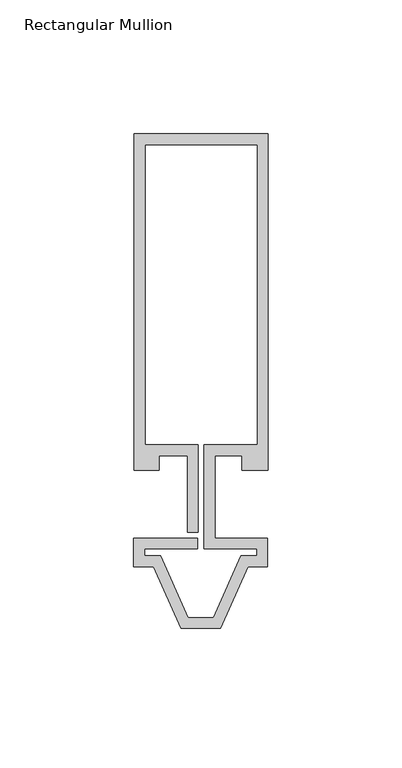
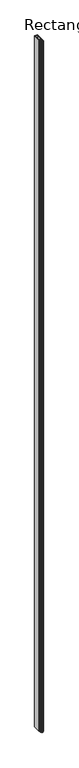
"""IFC4 building model written with IfcOpenShell, lengths in millimetres: member geometry, Rectangular Mullion : Reynaers_CW-50_Transom-Transom_Vertical_125.5mm_Facecap-04."""

import ifcopenshell
import ifcopenshell.guid

model = None  # the IFC model being written
_history = None  # IfcOwnerHistory: only IFC2X3 demands one
_inside = {}  # id of a spatial element -> (the spatial element, [elements in it])
_under = {}  # id of a project, library or spatial element -> (it, [spatial elements below it])
_declared = {}  # id of a project -> (the project, [libraries it declares])
_typed = {}  # id of a type object -> (the type object, [elements of that type])
_made_of = {}  # id of a material, layer set ... -> (it, [elements and type objects made of it])


def new_model(schema):
    """Start an empty IFC model of exactly this schema.

    Asked for "IFC4X3", IfcOpenShell would pick the latest addendum, in which some entities
    have other attributes; the version numbers below select the first issue.
    IFC2X3 requires an IfcOwnerHistory on every rooted entity: one is made here for all.
    """
    global model, _history
    if schema == "IFC4X3":
        model = ifcopenshell.file(schema_version=(4, 3, 0, 0))
    else:
        model = ifcopenshell.file(schema=schema)
    _inside.clear()
    _under.clear()
    _declared.clear()
    _typed.clear()
    _made_of.clear()
    _history = None
    if model.schema == "IFC2X3":
        org = make("IfcOrganization", Name="unknown")
        user = make(
            "IfcPersonAndOrganization",
            ThePerson=make("IfcPerson", FamilyName="unknown"),
            TheOrganization=org,
        )
        app = make(
            "IfcApplication",
            ApplicationDeveloper=org,
            Version="unknown",
            ApplicationFullName="unknown",
            ApplicationIdentifier="unknown",
        )
        _history = make(
            "IfcOwnerHistory",
            OwningUser=user,
            OwningApplication=app,
            ChangeAction="ADDED",
            CreationDate=0,
        )
    return model


def make(cls, **values):
    """One entity of the class cls with the attributes given. An attribute that is None is left unset."""
    return model.create_entity(
        cls, **{name: value for name, value in values.items() if value is not None}
    )


def rooted(cls, **values):
    """An entity with a GlobalId (a new one), such as an element, a storey or a relation."""
    return make(cls, GlobalId=ifcopenshell.guid.new(), OwnerHistory=_history, **values)


def si_unit(unit_type, name, prefix=None):
    """IfcSIUnit, for example si_unit("LENGTHUNIT", "METRE", prefix="MILLI")."""
    return make("IfcSIUnit", UnitType=unit_type, Prefix=prefix, Name=name)


def assignment(units):
    """IfcUnitAssignment: the units of a project."""
    return None if units is None else make("IfcUnitAssignment", Units=units)


def point(xyz):
    """IfcCartesianPoint."""
    return None if xyz is None else make("IfcCartesianPoint", Coordinates=xyz)


def direction(xyz):
    """IfcDirection."""
    return None if xyz is None else make("IfcDirection", DirectionRatios=xyz)


def frame(location, z_axis=None, x_axis=None):
    """IfcAxis2Placement3D, a coordinate frame: its origin and axes. An axis left out is left unset."""
    return make(
        "IfcAxis2Placement3D",
        Location=point(location),
        Axis=direction(z_axis),
        RefDirection=direction(x_axis),
    )


def origin():
    """The frame at (0, 0, 0) with its axes left unset."""
    return frame((0.0, 0.0, 0.0))


def place(relative_to, where):
    """IfcLocalPlacement: puts the frame where relative to a parent placement (None: the world)."""
    return make(
        "IfcLocalPlacement", PlacementRelTo=relative_to, RelativePlacement=where
    )


def context(
    kind, dimensions, precision=None, world=None, true_north=None, identifier=None
):
    """IfcGeometricRepresentationContext, for example the 3D "Model" context."""
    return make(
        "IfcGeometricRepresentationContext",
        ContextIdentifier=identifier,
        ContextType=kind,
        CoordinateSpaceDimension=dimensions,
        Precision=precision,
        WorldCoordinateSystem=world,
        TrueNorth=true_north,
    )


def project(units=None, contexts=None):
    """IfcProject with its units and contexts."""
    return rooted(
        "IfcProject",
        Name="project",
        RepresentationContexts=contexts,
        UnitsInContext=assignment(units),
    )


def spatial(cls, under=None, at=None, **own):
    """A site, building, storey or space (cls), placed at a placement, below another one or the project."""
    s = rooted(cls, ObjectPlacement=at, **own)
    if under is not None:
        _under.setdefault(under.id(), (under, []))[1].append(s)
    return s


def polyline(points):
    """IfcPolyline through the points."""
    return make("IfcPolyline", Points=[point(p) for p in points])


def outline(outer, holes=None, kind="AREA"):
    """IfcArbitraryClosedProfileDef: a profile drawn as a closed curve; with holes, ...WithVoids."""
    if holes is None:
        return make("IfcArbitraryClosedProfileDef", ProfileType=kind, OuterCurve=outer)
    return make(
        "IfcArbitraryProfileDefWithVoids",
        ProfileType=kind,
        OuterCurve=outer,
        InnerCurves=holes,
    )


def extrude(swept, where, along, depth):
    """IfcExtrudedAreaSolid: the profile swept, set in the frame where, extruded along a direction by depth."""
    return make(
        "IfcExtrudedAreaSolid",
        SweptArea=swept,
        Position=where,
        ExtrudedDirection=direction(along),
        Depth=depth,
    )


def shape(context_of_items, identifier, shape_type, items):
    """IfcShapeRepresentation: the items that make up one representation, for example the "Body"."""
    return make(
        "IfcShapeRepresentation",
        ContextOfItems=context_of_items,
        RepresentationIdentifier=identifier,
        RepresentationType=shape_type,
        Items=items,
    )


def source(mapping_origin, context_of_items, identifier, shape_type, items):
    """IfcRepresentationMap: a shape defined once, which mapped items show again and again."""
    return make(
        "IfcRepresentationMap",
        MappingOrigin=mapping_origin,
        MappedRepresentation=shape(context_of_items, identifier, shape_type, items),
    )


def transform(
    local_origin,
    x_axis=None,
    y_axis=None,
    z_axis=None,
    scale=None,
    scale2=None,
    scale3=None,
    uniform=True,
):
    """IfcCartesianTransformationOperator3D, or its non-uniform kind. x_axis, y_axis, z_axis: its Axis1, 2, 3."""
    if uniform:
        return make(
            "IfcCartesianTransformationOperator3D",
            Axis1=direction(x_axis),
            Axis2=direction(y_axis),
            LocalOrigin=point(local_origin),
            Scale=scale,
            Axis3=direction(z_axis),
        )
    return make(
        "IfcCartesianTransformationOperator3DnonUniform",
        Axis1=direction(x_axis),
        Axis2=direction(y_axis),
        LocalOrigin=point(local_origin),
        Scale=scale,
        Axis3=direction(z_axis),
        Scale2=scale2,
        Scale3=scale3,
    )


def mapped(mapping_source, mapping_target):
    """IfcMappedItem: shows the shape of a source again, moved by a transform."""
    return make(
        "IfcMappedItem", MappingSource=mapping_source, MappingTarget=mapping_target
    )


def made_of(thing, what):
    """Note that an element or type object is made of a material, layer set ...; save() writes the relation."""
    if what is not None:
        _made_of.setdefault(what.id(), (what, []))[1].append(thing)
    return thing


def element(
    cls,
    number,
    at=None,
    inside=None,
    cuts=None,
    type_object=None,
    material=None,
    context=None,
    identifier="Body",
    shape_type=None,
    held_by="IfcProductDefinitionShape",
    body=None,
    shapes=None,
    **own,
):
    """One element of the class cls, such as IfcWall. Its Tag is "e" and its number.

    at: its placement. inside: the storey or other place that contains it. cuts: it is an
    opening in that element (IfcRelVoidsElement). A single representation is given by context,
    identifier, shape_type and body (its items); several are given by shapes. held_by: the class
    of the entity that holds the representations. save() writes the other relations.
    """
    e = rooted(cls, Tag="e%d" % number, ObjectPlacement=at, **own)
    if body is not None:
        shapes = [shape(context, identifier, shape_type, body)]
    if shapes is not None:
        e.Representation = make(held_by, Representations=shapes)
    if inside is not None:
        _inside.setdefault(inside.id(), (inside, []))[1].append(e)
    if cuts is not None:
        rooted(
            "IfcRelVoidsElement", RelatingBuildingElement=cuts, RelatedOpeningElement=e
        )
    if type_object is not None:
        _typed.setdefault(type_object.id(), (type_object, []))[1].append(e)
    return made_of(e, material)


def aggregate(whole, parts):
    """IfcRelAggregates: a whole, such as a stair, and the parts it consists of."""
    return rooted("IfcRelAggregates", RelatingObject=whole, RelatedObjects=parts)


def save(model, path):
    """Write the relations noted so far, then the file.

    IfcRelAggregates (storeys below a building ...), IfcRelContainedInSpatialStructure (elements
    in a storey), IfcRelDefinesByType, IfcRelAssociatesMaterial and IfcRelDeclares: one each for
    every whole, place, type object, material and project.
    """
    for whole, parts in _under.values():
        aggregate(whole, parts)
    for where, things in _inside.values():
        rooted(
            "IfcRelContainedInSpatialStructure",
            RelatedElements=things,
            RelatingStructure=where,
        )
    for kind, things in _typed.values():
        rooted("IfcRelDefinesByType", RelatedObjects=things, RelatingType=kind)
    for what, things in _made_of.values():
        rooted("IfcRelAssociatesMaterial", RelatedObjects=things, RelatingMaterial=what)
    for by, libraries in _declared.values():
        rooted("IfcRelDeclares", RelatingContext=by, RelatedDefinitions=libraries)
    model.write(path)


def rectangular_mullion_d670cf64(model_context):
    return source(origin(), model_context, "Body", "SweptSolid", [
        extrude(outline(polyline([(25.1995941, 12.7331291), (15.499, 12.7331291), (15.499, 18.1331291), (5.2995941, 18.1331291), (5.2995941, -12.7331291), (24.994845, -12.7331291), (24.994845, -23.3331291), (17.6543638, -23.3331291), (7.3695812, -46.4331291), (-7.3695812, -46.4331291), (-17.6543638, -23.3331291), (-24.994845, -23.3331291), (-24.994845, -12.7331291), (-1.0995941, -12.7331291), (-1.0995941, -16.7331291), (-20.994845, -16.7331291), (-20.994845, -19.3331291), (-15.0567334, -19.3331291), (-4.7719508, -42.4331291), (4.7719508, -42.4331291), (15.0567334, -19.3331291), (20.994845, -19.3331291), (20.994845, -16.7331291), (1.2995941, -16.7331291), (1.2995941, 22.1331291), (21.1995941, 22.1331291), (21.1995941, 134.2331291), (-20.8004059, 134.2331291), (-20.8004059, 22.1331291), (-0.9004059, 22.1331291), (-0.9004059, -10.5), (-4.9004059, -10.5), (-4.9004059, 18.1331291), (-15.499, 18.1331291), (-15.499, 12.7331291), (-24.8004059, 12.7331291), (-24.8004059, 138.2331291), (25.1995941, 138.2331291), (25.1995941, 12.7331291)])), frame((0.0, 0.0, -12000.0), z_axis=(0.0, 0.0, 1.0), x_axis=(1.0, 0.0, 0.0)), (0.0, 0.0, 1.0), 12000.0),
    ])


if __name__ == "__main__":
    model = new_model("IFC4")
    model_context = context("Model", 3, world=origin())
    ifc_project = project(units=[si_unit("LENGTHUNIT", "METRE", prefix="MILLI")], contexts=[model_context])
    site = spatial("IfcSite", under=ifc_project)
    building = spatial("IfcBuilding", under=site)
    placement = place(None, origin())
    rectangular_mullion_shape = rectangular_mullion_d670cf64(model_context)
    element("IfcMember", 1, ObjectType="Rectangular Mullion : Reynaers_CW-50_Transom-Transom_Vertical_125.5mm_Facecap-04", at=placement, inside=building, context=model_context, shape_type="MappedRepresentation", body=[
        mapped(rectangular_mullion_shape, transform((0.0, 0.0, 0.0), x_axis=(1.0, 0.0, 0.0), y_axis=(0.0, 1.0, 0.0), z_axis=(0.0, 0.0, 1.0))),
    ])
    save(model, "model.ifc")
